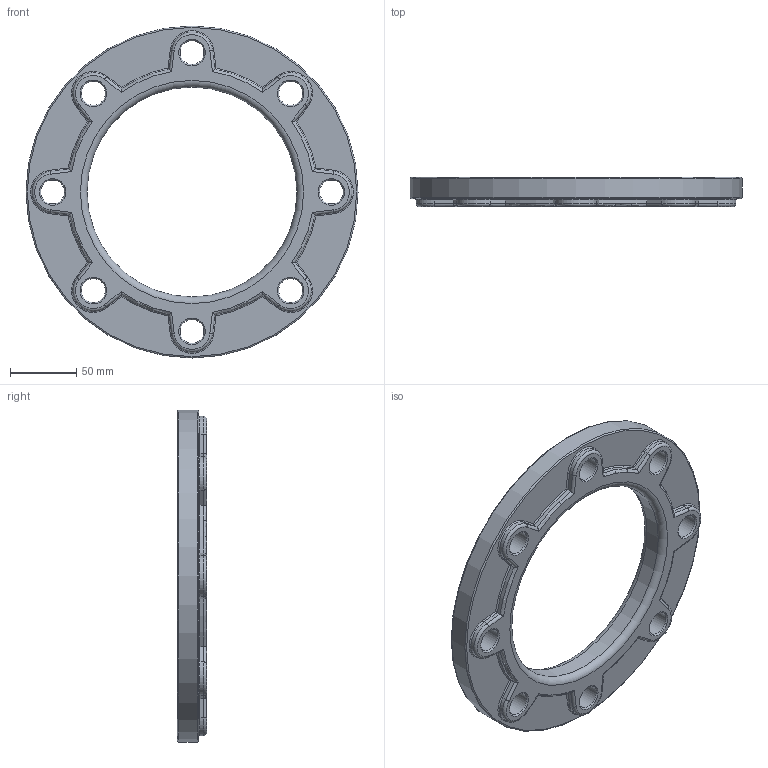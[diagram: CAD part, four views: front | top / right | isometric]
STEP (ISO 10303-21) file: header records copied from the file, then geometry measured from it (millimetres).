
FILE_DESCRIPTION(/* description */ ('Unknown'),/* implementation_level */ '2;1');
FILE_NAME(/* name */ 'FA140B',/* time_stamp */ '2022-07-19T11:59:40+02:00',/* author */ ('Unknown'),/* organization */ ('Unknown'),/* preprocessor_version */ 'ST-DEVELOPER v18.102',/* originating_system */ 'Solid Edge',/* authorisation */ 'Unknown');
FILE_SCHEMA (('AUTOMOTIVE_DESIGN {1 0 10303 214 3 1 1}'));
Length unit declared in the file: millimetre
Products named in the file (1): FA140B
Bounding box: 250 x 22 x 250 mm (x, y, z)
Volume: 505215.4 mm3; surface area: 89309.4 mm2
Topology: 1 solids, 1 shells, 129 faces, 318 edges, 192 vertices
Faces by surface type: cylinder 58, torus 36, plane 19, cone 16
Full cylindrical faces by diameter (mm): 18 x8, 158 x1, 250 x1
Entity records: 3552 total; most frequent: CARTESIAN_POINT 690, DIRECTION 628, ORIENTED_EDGE 528, AXIS2_PLACEMENT_3D 266, EDGE_CURVE 264, EDGE_LOOP 178, FACE_BOUND 178, VERTEX_POINT 168
